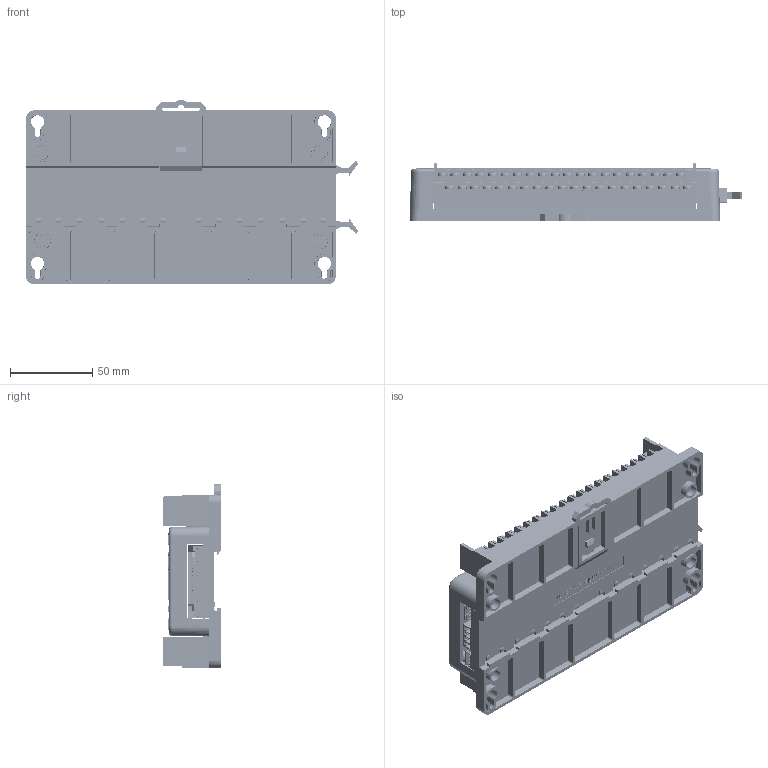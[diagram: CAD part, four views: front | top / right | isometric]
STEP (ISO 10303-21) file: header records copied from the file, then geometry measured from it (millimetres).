
FILE_DESCRIPTION (( 'STEP AP214' ), '1' );
FILE_NAME ('MSB764T_ASM.STEP', '2016-05-19T05:54:09', ( 'Registered User' ), ( 'Microsoft Corporation' ), 'SwSTEP 2.0', 'SolidWorks 2014', '' );
FILE_SCHEMA (( 'AUTOMOTIVE_DESIGN' ));
Length unit declared in the file: millimetre
Products named in the file (1): MSB764T_ASM
Bounding box: 201.4 x 35.2 x 111.84 mm (x, y, z)
Surface area: 169176.7 mm2 (no closed solid volume)
Topology: 0 solids, 272 shells, 5520 faces, 25683 edges, 19724 vertices
Faces by surface type: plane 3832, bspline 651, cylinder 550, torus 404, cone 83
Entity records: 382824 total; most frequent: CARTESIAN_POINT 136871, ORIENTED_EDGE 37135, DIRECTION 30684, EDGE_CURVE 25683, VERTEX_POINT 19724, VECTOR 14902, LINE 14902, AXIS2_PLACEMENT_3D 7891
